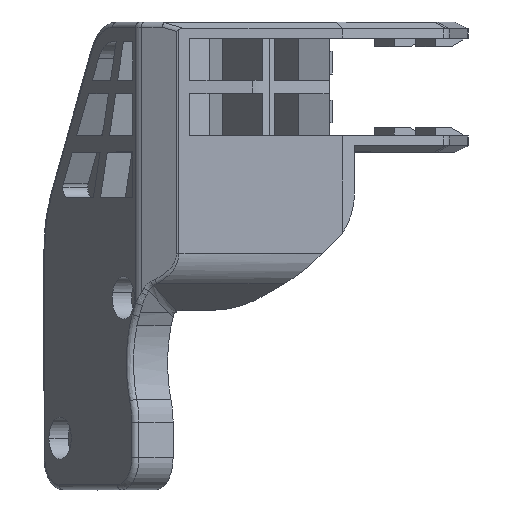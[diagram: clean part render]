
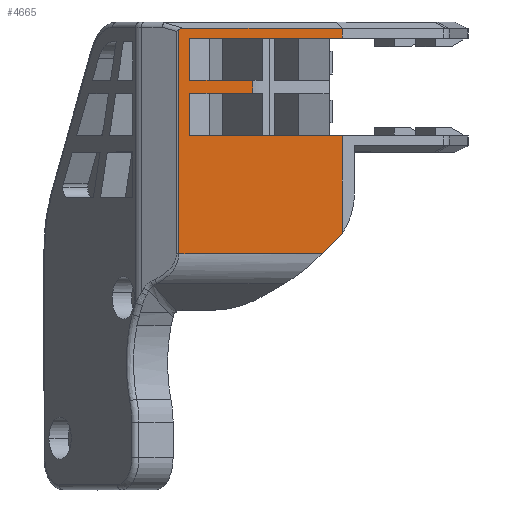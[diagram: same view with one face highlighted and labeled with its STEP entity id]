
A CAD part, top view. The second image highlights one B-rep face of the part: STEP entity #4665.
In plain terms, the highlighted planar face has unit normal (0.006, 0, 1).
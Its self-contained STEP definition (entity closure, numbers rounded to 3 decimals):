
#4561=AXIS2_PLACEMENT_3D('Plane Axis2P3D',#4558,#4559,#4560) ;
#2942=CARTESIAN_POINT('Vertex',(-178.597,-1305.173,365.055)) ;
#2946=CARTESIAN_POINT('Control Point',(-177.861,-1305.001,365.051)) ;
#2947=CARTESIAN_POINT('Control Point',(-178.15,-1305.001,365.053)) ;
#2948=CARTESIAN_POINT('Control Point',(-178.42,-1305.055,365.054)) ;
#2949=CARTESIAN_POINT('Control Point',(-178.597,-1305.173,365.055)) ;
#2950=CARTESIAN_POINT('Vertex',(-177.861,-1305.001,365.051)) ;
#3129=CARTESIAN_POINT('Vertex',(-178.597,-1339.673,365.055)) ;
#3157=CARTESIAN_POINT('Line Origine',(-178.597,-1372.001,365.055)) ;
#3181=CARTESIAN_POINT('Line Origine',(-165.656,-1305.001,364.982)) ;
#3185=CARTESIAN_POINT('Vertex',(-153.452,-1305.001,364.912)) ;
#4558=CARTESIAN_POINT('Axis2P3D Location',(-183.98,-1372.001,365.086)) ;
#4563=CARTESIAN_POINT('Line Origine',(-167.564,-1339.673,364.992)) ;
#4567=CARTESIAN_POINT('Vertex',(-156.53,-1339.673,364.93)) ;
#4570=CARTESIAN_POINT('Line Origine',(-155.072,-1338.194,364.921)) ;
#4574=CARTESIAN_POINT('Vertex',(-153.615,-1336.714,364.913)) ;
#4578=CARTESIAN_POINT('Control Point',(-153.615,-1336.714,364.913)) ;
#4579=CARTESIAN_POINT('Control Point',(-153.582,-1336.681,364.913)) ;
#4580=CARTESIAN_POINT('Control Point',(-153.549,-1336.647,364.913)) ;
#4581=CARTESIAN_POINT('Control Point',(-153.516,-1336.613,364.912)) ;
#4582=CARTESIAN_POINT('Control Point',(-153.484,-1336.579,364.912)) ;
#4583=CARTESIAN_POINT('Control Point',(-153.452,-1336.545,364.912)) ;
#4584=CARTESIAN_POINT('Vertex',(-153.452,-1336.545,364.912)) ;
#4587=CARTESIAN_POINT('Line Origine',(-153.452,-1329.023,364.912)) ;
#4591=CARTESIAN_POINT('Vertex',(-153.452,-1321.501,364.912)) ;
#4594=CARTESIAN_POINT('Line Origine',(-165.193,-1321.501,364.979)) ;
#4598=CARTESIAN_POINT('Vertex',(-176.935,-1321.501,365.046)) ;
#4601=CARTESIAN_POINT('Line Origine',(-176.935,-1318.251,365.046)) ;
#4605=CARTESIAN_POINT('Vertex',(-176.935,-1315.001,365.046)) ;
#4608=CARTESIAN_POINT('Line Origine',(-172.102,-1315.001,365.018)) ;
#4612=CARTESIAN_POINT('Vertex',(-167.269,-1315.001,364.991)) ;
#4615=CARTESIAN_POINT('Line Origine',(-167.269,-1314.001,364.991)) ;
#4619=CARTESIAN_POINT('Vertex',(-167.269,-1313.001,364.991)) ;
#4622=CARTESIAN_POINT('Line Origine',(-172.102,-1313.001,365.018)) ;
#4626=CARTESIAN_POINT('Vertex',(-176.935,-1313.001,365.046)) ;
#4629=CARTESIAN_POINT('Line Origine',(-176.935,-1309.751,365.046)) ;
#4633=CARTESIAN_POINT('Vertex',(-176.935,-1306.501,365.046)) ;
#4636=CARTESIAN_POINT('Line Origine',(-165.193,-1306.501,364.979)) ;
#4640=CARTESIAN_POINT('Vertex',(-153.452,-1306.501,364.912)) ;
#4643=CARTESIAN_POINT('Line Origine',(-153.452,-1305.751,364.912)) ;
#3158=DIRECTION('Vector Direction',(0.,1.,0.)) ;
#3182=DIRECTION('Vector Direction',(-1.,0.,0.006)) ;
#4559=DIRECTION('Axis2P3D Direction',(-0.006,0.,-1.)) ;
#4560=DIRECTION('Axis2P3D XDirection',(0.,1.,0.)) ;
#4564=DIRECTION('Vector Direction',(1.,0.,-0.006)) ;
#4571=DIRECTION('Vector Direction',(0.702,0.712,-0.004)) ;
#4588=DIRECTION('Vector Direction',(0.,-1.,0.)) ;
#4595=DIRECTION('Vector Direction',(-1.,0.,0.006)) ;
#4602=DIRECTION('Vector Direction',(0.,1.,0.)) ;
#4609=DIRECTION('Vector Direction',(-1.,0.,0.006)) ;
#4616=DIRECTION('Vector Direction',(0.,1.,0.)) ;
#4623=DIRECTION('Vector Direction',(-1.,0.,0.006)) ;
#4630=DIRECTION('Vector Direction',(0.,1.,0.)) ;
#4637=DIRECTION('Vector Direction',(-1.,0.,0.006)) ;
#4644=DIRECTION('Vector Direction',(0.,-1.,0.)) ;
#3159=VECTOR('Line Direction',#3158,1.) ;
#3183=VECTOR('Line Direction',#3182,1.) ;
#4565=VECTOR('Line Direction',#4564,1.) ;
#4572=VECTOR('Line Direction',#4571,1.) ;
#4589=VECTOR('Line Direction',#4588,1.) ;
#4596=VECTOR('Line Direction',#4595,1.) ;
#4603=VECTOR('Line Direction',#4602,1.) ;
#4610=VECTOR('Line Direction',#4609,1.) ;
#4617=VECTOR('Line Direction',#4616,1.) ;
#4624=VECTOR('Line Direction',#4623,1.) ;
#4631=VECTOR('Line Direction',#4630,1.) ;
#4638=VECTOR('Line Direction',#4637,1.) ;
#4645=VECTOR('Line Direction',#4644,1.) ;
#4649=ORIENTED_EDGE('',*,*,#3187,.T.) ;
#4650=ORIENTED_EDGE('',*,*,#2952,.T.) ;
#4651=ORIENTED_EDGE('',*,*,#3161,.T.) ;
#4652=ORIENTED_EDGE('',*,*,#4569,.T.) ;
#4653=ORIENTED_EDGE('',*,*,#4576,.T.) ;
#4654=ORIENTED_EDGE('',*,*,#4586,.T.) ;
#4655=ORIENTED_EDGE('',*,*,#4593,.F.) ;
#4656=ORIENTED_EDGE('',*,*,#4600,.T.) ;
#4657=ORIENTED_EDGE('',*,*,#4607,.T.) ;
#4658=ORIENTED_EDGE('',*,*,#4614,.F.) ;
#4659=ORIENTED_EDGE('',*,*,#4621,.T.) ;
#4660=ORIENTED_EDGE('',*,*,#4628,.T.) ;
#4661=ORIENTED_EDGE('',*,*,#4635,.T.) ;
#4662=ORIENTED_EDGE('',*,*,#4642,.F.) ;
#4663=ORIENTED_EDGE('',*,*,#4647,.F.) ;
#4665=ADVANCED_FACE('MANIFOLD_SOLID_BREP #39',(#4664),#4562,.F.) ;
#2945=B_SPLINE_CURVE_WITH_KNOTS('',3,(#2946,#2947,#2948,#2949),.UNSPECIFIED.,.F.,.U.,(4,4),(0.,1.4),.UNSPECIFIED.) ;
#4577=B_SPLINE_CURVE_WITH_KNOTS('',5,(#4578,#4579,#4580,#4581,#4582,#4583),.UNSPECIFIED.,.F.,.U.,(6,6),(0.,0.412),.UNSPECIFIED.) ;
#2952=EDGE_CURVE('',#2951,#2943,#2945,.T.) ;
#3161=EDGE_CURVE('',#2943,#3130,#3160,.F.) ;
#3187=EDGE_CURVE('',#3186,#2951,#3184,.T.) ;
#4569=EDGE_CURVE('',#3130,#4568,#4566,.T.) ;
#4576=EDGE_CURVE('',#4568,#4575,#4573,.T.) ;
#4586=EDGE_CURVE('',#4575,#4585,#4577,.T.) ;
#4593=EDGE_CURVE('',#4592,#4585,#4590,.T.) ;
#4600=EDGE_CURVE('',#4592,#4599,#4597,.T.) ;
#4607=EDGE_CURVE('',#4599,#4606,#4604,.T.) ;
#4614=EDGE_CURVE('',#4613,#4606,#4611,.T.) ;
#4621=EDGE_CURVE('',#4613,#4620,#4618,.T.) ;
#4628=EDGE_CURVE('',#4620,#4627,#4625,.T.) ;
#4635=EDGE_CURVE('',#4627,#4634,#4632,.T.) ;
#4642=EDGE_CURVE('',#4641,#4634,#4639,.T.) ;
#4647=EDGE_CURVE('',#3186,#4641,#4646,.T.) ;
#4648=EDGE_LOOP('',(#4649,#4650,#4651,#4652,#4653,#4654,#4655,#4656,#4657,#4658,#4659,#4660,#4661,#4662,#4663)) ;
#4664=FACE_OUTER_BOUND('',#4648,.T.) ;
#3160=LINE('Line',#3157,#3159) ;
#3184=LINE('Line',#3181,#3183) ;
#4566=LINE('Line',#4563,#4565) ;
#4573=LINE('Line',#4570,#4572) ;
#4590=LINE('Line',#4587,#4589) ;
#4597=LINE('Line',#4594,#4596) ;
#4604=LINE('Line',#4601,#4603) ;
#4611=LINE('Line',#4608,#4610) ;
#4618=LINE('Line',#4615,#4617) ;
#4625=LINE('Line',#4622,#4624) ;
#4632=LINE('Line',#4629,#4631) ;
#4639=LINE('Line',#4636,#4638) ;
#4646=LINE('Line',#4643,#4645) ;
#4562=PLANE('',#4561) ;
#2943=VERTEX_POINT('',#2942) ;
#2951=VERTEX_POINT('',#2950) ;
#3130=VERTEX_POINT('',#3129) ;
#3186=VERTEX_POINT('',#3185) ;
#4568=VERTEX_POINT('',#4567) ;
#4575=VERTEX_POINT('',#4574) ;
#4585=VERTEX_POINT('',#4584) ;
#4592=VERTEX_POINT('',#4591) ;
#4599=VERTEX_POINT('',#4598) ;
#4606=VERTEX_POINT('',#4605) ;
#4613=VERTEX_POINT('',#4612) ;
#4620=VERTEX_POINT('',#4619) ;
#4627=VERTEX_POINT('',#4626) ;
#4634=VERTEX_POINT('',#4633) ;
#4641=VERTEX_POINT('',#4640) ;
